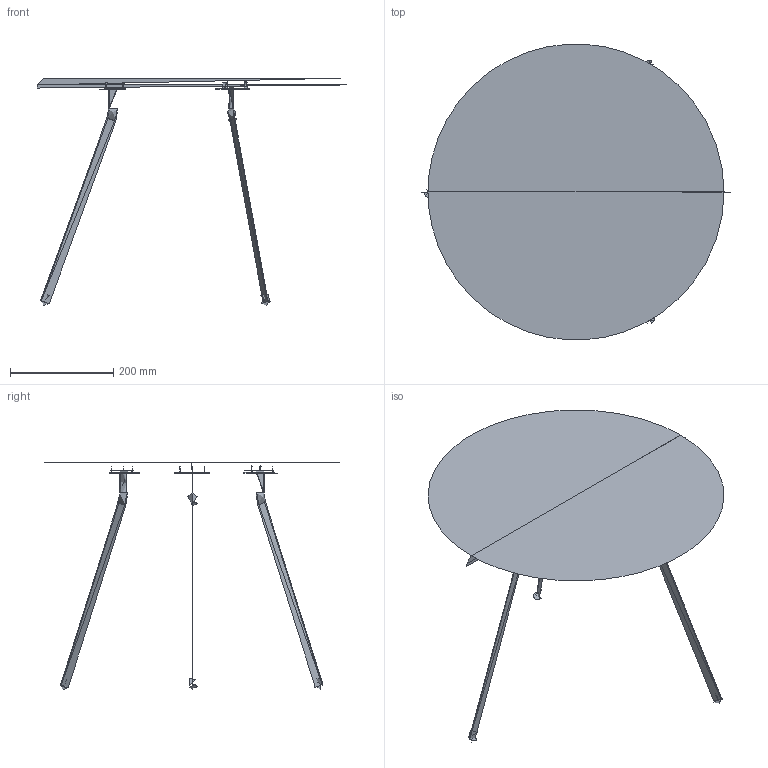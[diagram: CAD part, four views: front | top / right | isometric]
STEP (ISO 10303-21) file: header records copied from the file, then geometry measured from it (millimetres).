
FILE_DESCRIPTION(/* description */ (''),/* implementation_level */ '2;1');
FILE_NAME(/* name */ '110518_Soround',/* time_stamp */ '2019-09-26T09:16:28+02:00',/* author */ (''),/* organization */ (''),/* preprocessor_version */ 'ST-DEVELOPER v15',/* originating_system */ '',/* authorisation */ '');
FILE_SCHEMA (('AUTOMOTIVE_DESIGN'));
Length unit declared in the file: millimetre
Products named in the file (1): Document
Bounding box: 600 x 572.96 x 441.25 mm (x, y, z)
Surface area: 772065.6 mm2 (no closed solid volume)
Topology: 0 solids, 241 shells, 241 faces, 665 edges, 653 vertices
Faces by surface type: bspline 196, plane 45
Entity records: 13821 total; most frequent: CARTESIAN_POINT 7827, ORIENTED_EDGE 552, EDGE_CURVE 552, VERTEX_POINT 552, COLOUR_RGB 322, PRESENTATION_STYLE_ASSIGNMENT 322, STYLED_ITEM 322, PRESENTATION_LAYER_ASSIGNMENT 322
